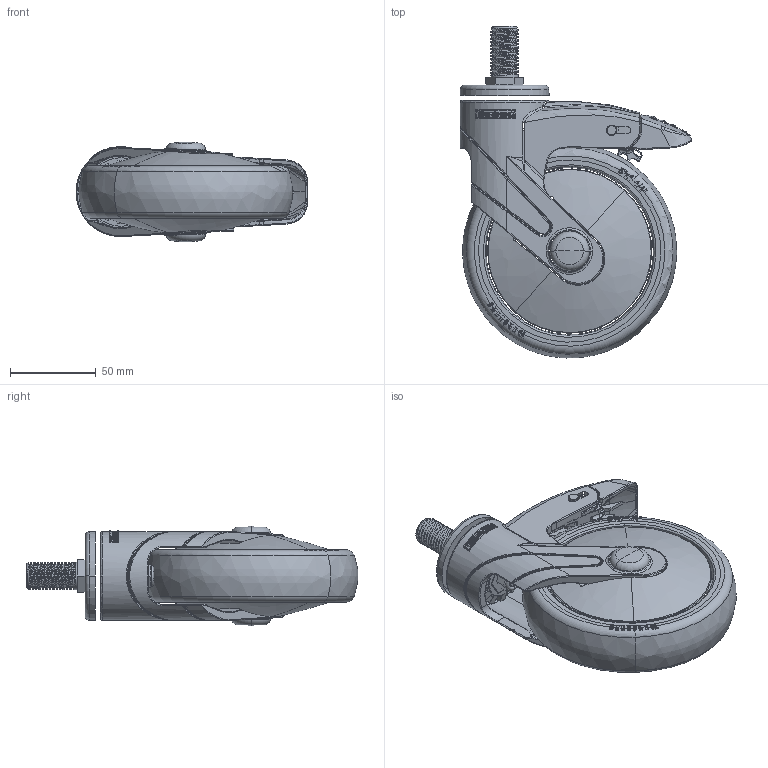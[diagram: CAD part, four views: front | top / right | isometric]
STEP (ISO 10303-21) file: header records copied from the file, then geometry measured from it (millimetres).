
FILE_DESCRIPTION((''),'2;1');
FILE_NAME('PRT0022','2026-01-12T11:17:19',('Administrator'),(''),'CREO PARAMETRIC BY PTC INC, 2022124','CREO PARAMETRIC BY PTC INC, 2022124','');
FILE_SCHEMA(('AUTOMOTIVE_DESIGN { 1 0 10303 214 1 1 1 1 }'));
Products named in the file (1): PRT0022
Bounding box: 135.39 x 193.97 x 58.19 mm (x, y, z)
Surface area: 77627.4 mm2 (no closed solid volume)
Topology: 0 solids, 68 shells, 811 faces, 3975 edges, 3108 vertices
Faces by surface type: cylinder 250, bspline 250, plane 176, torus 93, cone 28, sphere 12, extrusion 2
Entity records: 72132 total; most frequent: CARTESIAN_POINT 39395, ORIENTED_EDGE 5241, DIRECTION 4598, EDGE_CURVE 3959, VERTEX_POINT 3108, AXIS2_PLACEMENT_3D 1762, B_SPLINE_CURVE_WITH_KNOTS 1699, CIRCLE 1191
